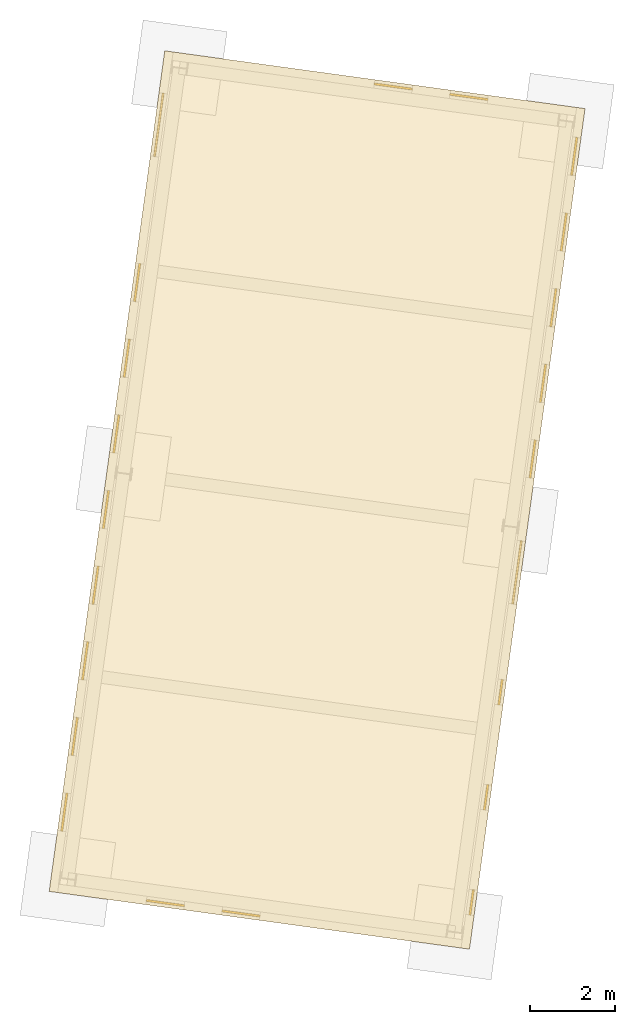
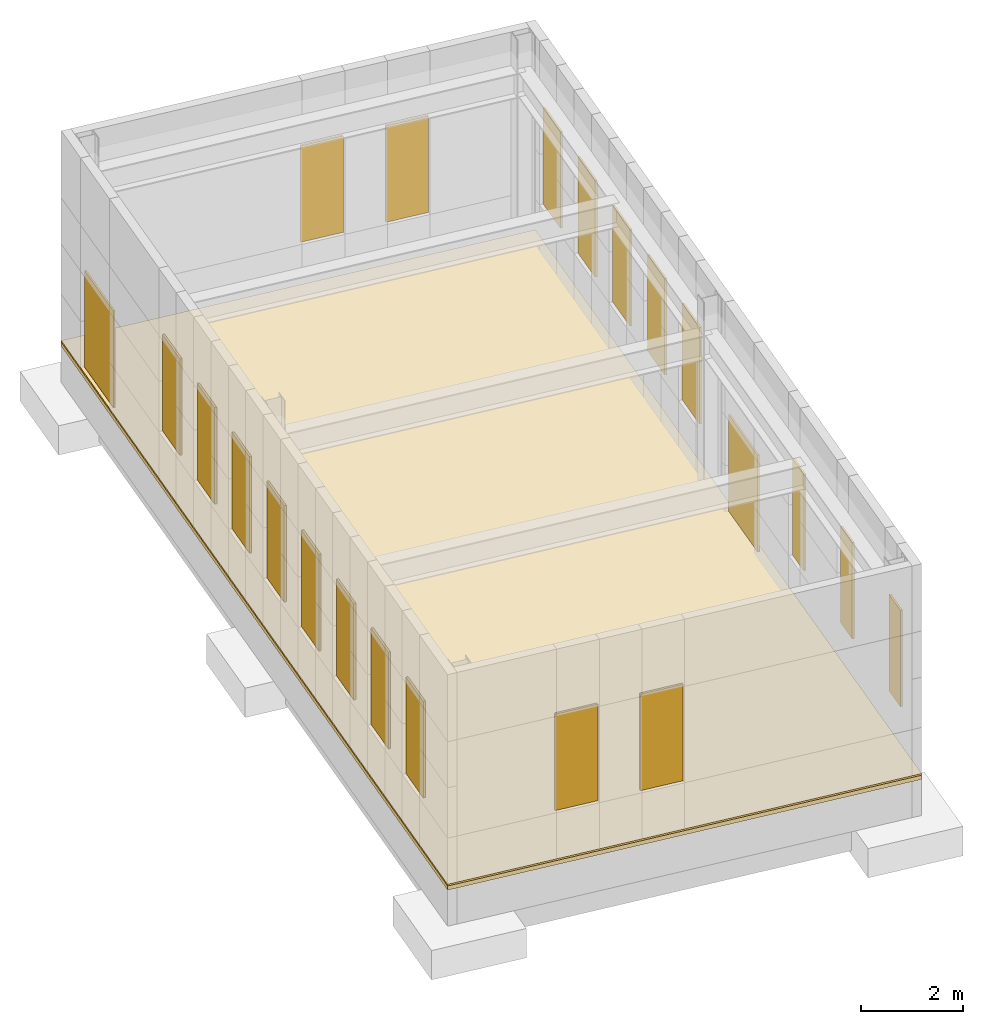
# One storey, part 5 of 5: 20 windows, 2 coverings, 2 doors.
"""IFC4 building model written with IfcOpenShell, lengths in metres."""

from ifc_helpers import new_model, si_unit, direction, origin_with_axes, place, context, subcontext, project, spatial, triangles, material, element, save


model = new_model("IFC4")

# Units and contexts
model_context = context("Model", 3, precision=1e-05, world=origin_with_axes(), true_north=direction((0.0, 1.0)))
body_context = subcontext(model_context, "Body", "Model", "MODEL_VIEW")
ifc_project = project(units=[si_unit("AREAUNIT", "SQUARE_METRE"), si_unit("VOLUMEUNIT", "CUBIC_METRE"), si_unit("LENGTHUNIT", "METRE")], contexts=[model_context])

# Site, building, storey
site_placement = place(None, origin_with_axes())
site = spatial("IfcSite", under=ifc_project, at=site_placement, Name="Parcela industrial Jinhong")
building_placement = place(site_placement, origin_with_axes())
building = spatial("IfcBuilding", under=site, at=building_placement, Name="Edificio de oficinas")
storey_placement = place(building_placement, origin_with_axes())
storey = spatial("IfcBuildingStorey", under=building, at=storey_placement, Name="Planta baja", Elevation=0.9499999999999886)

# Windows
ifc_material_1 = material(Name="Aluminio y acristalamiento 6+12A+6", Category="Material documentado")
window_1_placement = place(storey_placement, origin_with_axes())
element("IfcWindow", 1, at=window_1_placement, inside=storey, material=ifc_material_1, Name="Edificio de oficinas · ventana C0923_B_1", PredefinedType="WINDOW", context=body_context, shape_type="Tessellation", body=[
    triangles([(27.232742, 90.878997, 2.05), (27.110159, 89.987384, 2.05), (27.154739, 89.981255, 2.05), (27.277323, 90.872868, 2.05), (27.232742, 90.878997, 4.35), (27.110159, 89.987384, 4.35), (27.154739, 89.981255, 4.35), (27.277323, 90.872868, 4.35)], [[2, 1, 4], [4, 3, 2], [8, 5, 6], [6, 7, 8], [1, 2, 6], [1, 6, 5], [2, 3, 7], [2, 7, 6], [3, 4, 8], [3, 8, 7], [4, 1, 5], [4, 5, 8]], closed=True),
])
window_2_placement = place(storey_placement, origin_with_axes())
element("IfcWindow", 2, at=window_2_placement, inside=storey, material=ifc_material_1, Name="Edificio de oficinas · ventana C0923_B_2", PredefinedType="WINDOW", context=body_context, shape_type="Tessellation", body=[
    triangles([(26.987575, 89.095772, 2.05), (26.864992, 88.204159, 2.05), (26.909572, 88.19803, 2.05), (27.032156, 89.089642, 2.05), (26.987575, 89.095772, 4.35), (26.864992, 88.204159, 4.35), (26.909572, 88.19803, 4.35), (27.032156, 89.089642, 4.35)], [[2, 1, 4], [4, 3, 2], [8, 5, 6], [6, 7, 8], [1, 2, 6], [1, 6, 5], [2, 3, 7], [2, 7, 6], [3, 4, 8], [3, 8, 7], [4, 1, 5], [4, 5, 8]], closed=True),
])
window_3_placement = place(storey_placement, origin_with_axes())
element("IfcWindow", 3, at=window_3_placement, inside=storey, material=ifc_material_1, Name="Edificio de oficinas · ventana C0923_B_3", PredefinedType="WINDOW", context=body_context, shape_type="Tessellation", body=[
    triangles([(26.742408, 87.312546, 2.05), (26.619825, 86.420933, 2.05), (26.664405, 86.414804, 2.05), (26.786989, 87.306417, 2.05), (26.742408, 87.312546, 4.35), (26.619825, 86.420933, 4.35), (26.664405, 86.414804, 4.35), (26.786989, 87.306417, 4.35)], [[2, 1, 4], [4, 3, 2], [8, 5, 6], [6, 7, 8], [1, 2, 6], [1, 6, 5], [2, 3, 7], [2, 7, 6], [3, 4, 8], [3, 8, 7], [4, 1, 5], [4, 5, 8]], closed=True),
])
window_4_placement = place(storey_placement, origin_with_axes())
element("IfcWindow", 4, at=window_4_placement, inside=storey, material=ifc_material_1, Name="Edificio de oficinas · ventana C0923_B_4", PredefinedType="WINDOW", context=body_context, shape_type="Tessellation", body=[
    triangles([(26.497241, 85.529321, 2.05), (26.374657, 84.637708, 2.05), (26.419238, 84.631579, 2.05), (26.541822, 85.523191, 2.05), (26.497241, 85.529321, 4.35), (26.374657, 84.637708, 4.35), (26.419238, 84.631579, 4.35), (26.541822, 85.523191, 4.35)], [[2, 1, 4], [4, 3, 2], [8, 5, 6], [6, 7, 8], [1, 2, 6], [1, 6, 5], [2, 3, 7], [2, 7, 6], [3, 4, 8], [3, 8, 7], [4, 1, 5], [4, 5, 8]], closed=True),
])
window_5_placement = place(storey_placement, origin_with_axes())
element("IfcWindow", 5, at=window_5_placement, inside=storey, material=ifc_material_1, Name="Edificio de oficinas · ventana C0923_B_5", PredefinedType="WINDOW", context=body_context, shape_type="Tessellation", body=[
    triangles([(26.252074, 83.746095, 2.05), (26.12949, 82.854482, 2.05), (26.174071, 82.848353, 2.05), (26.296655, 83.739966, 2.05), (26.252074, 83.746095, 4.35), (26.12949, 82.854482, 4.35), (26.174071, 82.848353, 4.35), (26.296655, 83.739966, 4.35)], [[2, 1, 4], [4, 3, 2], [8, 5, 6], [6, 7, 8], [1, 2, 6], [1, 6, 5], [2, 3, 7], [2, 7, 6], [3, 4, 8], [3, 8, 7], [4, 1, 5], [4, 5, 8]], closed=True),
])
window_6_placement = place(storey_placement, origin_with_axes())
element("IfcWindow", 6, at=window_6_placement, inside=storey, material=ifc_material_1, Name="Edificio de oficinas · ventana C0623_B_1", PredefinedType="WINDOW", context=body_context, shape_type="Tessellation", body=[
    triangles([(25.475712, 78.099214, 2.05), (25.393989, 77.504806, 2.05), (25.43857, 77.498677, 2.05), (25.520292, 78.093085, 2.05), (25.475712, 78.099214, 4.35), (25.393989, 77.504806, 4.35), (25.43857, 77.498677, 4.35), (25.520292, 78.093085, 4.35)], [[2, 1, 4], [4, 3, 2], [8, 5, 6], [6, 7, 8], [1, 2, 6], [1, 6, 5], [2, 3, 7], [2, 7, 6], [3, 4, 8], [3, 8, 7], [4, 1, 5], [4, 5, 8]], closed=True),
])
window_7_placement = place(storey_placement, origin_with_axes())
element("IfcWindow", 7, at=window_7_placement, inside=storey, material=ifc_material_1, Name="Edificio de oficinas · ventana C0623_B_2", PredefinedType="WINDOW", context=body_context, shape_type="Tessellation", body=[
    triangles([(25.135202, 75.622512, 2.05), (25.053479, 75.028104, 2.05), (25.09806, 75.021975, 2.05), (25.179782, 75.616383, 2.05), (25.135202, 75.622512, 4.35), (25.053479, 75.028104, 4.35), (25.09806, 75.021975, 4.35), (25.179782, 75.616383, 4.35)], [[2, 1, 4], [4, 3, 2], [8, 5, 6], [6, 7, 8], [1, 2, 6], [1, 6, 5], [2, 3, 7], [2, 7, 6], [3, 4, 8], [3, 8, 7], [4, 1, 5], [4, 5, 8]], closed=True),
])
window_8_placement = place(storey_placement, origin_with_axes())
element("IfcWindow", 8, at=window_8_placement, inside=storey, material=ifc_material_1, Name="Edificio de oficinas · ventana C0623_B_3", PredefinedType="WINDOW", context=body_context, shape_type="Tessellation", body=[
    triangles([(24.794692, 73.14581, 2.05), (24.71297, 72.551402, 2.05), (24.75755, 72.545273, 2.05), (24.839273, 73.139681, 2.05), (24.794692, 73.14581, 4.35), (24.71297, 72.551402, 4.35), (24.75755, 72.545273, 4.35), (24.839273, 73.139681, 4.35)], [[2, 1, 4], [4, 3, 2], [8, 5, 6], [6, 7, 8], [1, 2, 6], [1, 6, 5], [2, 3, 7], [2, 7, 6], [3, 4, 8], [3, 8, 7], [4, 1, 5], [4, 5, 8]], closed=True),
])
window_9_placement = place(storey_placement, origin_with_axes())
element("IfcWindow", 9, at=window_9_placement, inside=storey, material=ifc_material_1, Name="Edificio de oficinas · ventana C0923_A_1", PredefinedType="WINDOW", context=body_context, shape_type="Tessellation", body=[
    triangles([(16.931583, 87.904334, 2.05), (16.809, 87.012721, 2.05), (16.85358, 87.006592, 2.05), (16.976164, 87.898205, 2.05), (16.931583, 87.904334, 4.35), (16.809, 87.012721, 4.35), (16.85358, 87.006592, 4.35), (16.976164, 87.898205, 4.35)], [[2, 1, 4], [4, 3, 2], [8, 5, 6], [6, 7, 8], [1, 2, 6], [1, 6, 5], [2, 3, 7], [2, 7, 6], [3, 4, 8], [3, 8, 7], [4, 1, 5], [4, 5, 8]], closed=True),
])
window_10_placement = place(storey_placement, origin_with_axes())
element("IfcWindow", 10, at=window_10_placement, inside=storey, material=ifc_material_1, Name="Edificio de oficinas · ventana C0923_A_2", PredefinedType="WINDOW", context=body_context, shape_type="Tessellation", body=[
    triangles([(16.686416, 86.121108, 2.05), (16.563832, 85.229496, 2.05), (16.608413, 85.223366, 2.05), (16.730997, 86.114979, 2.05), (16.686416, 86.121108, 4.35), (16.563832, 85.229496, 4.35), (16.608413, 85.223366, 4.35), (16.730997, 86.114979, 4.35)], [[2, 1, 4], [4, 3, 2], [8, 5, 6], [6, 7, 8], [1, 2, 6], [1, 6, 5], [2, 3, 7], [2, 7, 6], [3, 4, 8], [3, 8, 7], [4, 1, 5], [4, 5, 8]], closed=True),
])
window_11_placement = place(storey_placement, origin_with_axes())
element("IfcWindow", 11, at=window_11_placement, inside=storey, material=ifc_material_1, Name="Edificio de oficinas · ventana C0923_A_3", PredefinedType="WINDOW", context=body_context, shape_type="Tessellation", body=[
    triangles([(16.441249, 84.337883, 2.05), (16.318665, 83.44627, 2.05), (16.363246, 83.440141, 2.05), (16.48583, 84.331754, 2.05), (16.441249, 84.337883, 4.35), (16.318665, 83.44627, 4.35), (16.363246, 83.440141, 4.35), (16.48583, 84.331754, 4.35)], [[2, 1, 4], [4, 3, 2], [8, 5, 6], [6, 7, 8], [1, 2, 6], [1, 6, 5], [2, 3, 7], [2, 7, 6], [3, 4, 8], [3, 8, 7], [4, 1, 5], [4, 5, 8]], closed=True),
])
window_12_placement = place(storey_placement, origin_with_axes())
element("IfcWindow", 12, at=window_12_placement, inside=storey, material=ifc_material_1, Name="Edificio de oficinas · ventana C0923_A_4", PredefinedType="WINDOW", context=body_context, shape_type="Tessellation", body=[
    triangles([(16.196082, 82.554657, 2.05), (16.073498, 81.663045, 2.05), (16.118079, 81.656916, 2.05), (16.240663, 82.548528, 2.05), (16.196082, 82.554657, 4.35), (16.073498, 81.663045, 4.35), (16.118079, 81.656916, 4.35), (16.240663, 82.548528, 4.35)], [[2, 1, 4], [4, 3, 2], [8, 5, 6], [6, 7, 8], [1, 2, 6], [1, 6, 5], [2, 3, 7], [2, 7, 6], [3, 4, 8], [3, 8, 7], [4, 1, 5], [4, 5, 8]], closed=True),
])
window_13_placement = place(storey_placement, origin_with_axes())
element("IfcWindow", 13, at=window_13_placement, inside=storey, material=ifc_material_1, Name="Edificio de oficinas · ventana C0923_A_5", PredefinedType="WINDOW", context=body_context, shape_type="Tessellation", body=[
    triangles([(15.950915, 80.771432, 2.05), (15.828331, 79.879819, 2.05), (15.872912, 79.87369, 2.05), (15.995495, 80.765303, 2.05), (15.950915, 80.771432, 4.35), (15.828331, 79.879819, 4.35), (15.872912, 79.87369, 4.35), (15.995495, 80.765303, 4.35)], [[2, 1, 4], [4, 3, 2], [8, 5, 6], [6, 7, 8], [1, 2, 6], [1, 6, 5], [2, 3, 7], [2, 7, 6], [3, 4, 8], [3, 8, 7], [4, 1, 5], [4, 5, 8]], closed=True),
])
window_14_placement = place(storey_placement, origin_with_axes())
element("IfcWindow", 14, at=window_14_placement, inside=storey, material=ifc_material_1, Name="Edificio de oficinas · ventana C0923_A_6", PredefinedType="WINDOW", context=body_context, shape_type="Tessellation", body=[
    triangles([(15.705748, 78.988206, 2.05), (15.583164, 78.096594, 2.05), (15.627745, 78.090465, 2.05), (15.750328, 78.982077, 2.05), (15.705748, 78.988206, 4.35), (15.583164, 78.096594, 4.35), (15.627745, 78.090465, 4.35), (15.750328, 78.982077, 4.35)], [[2, 1, 4], [4, 3, 2], [8, 5, 6], [6, 7, 8], [1, 2, 6], [1, 6, 5], [2, 3, 7], [2, 7, 6], [3, 4, 8], [3, 8, 7], [4, 1, 5], [4, 5, 8]], closed=True),
])
window_15_placement = place(storey_placement, origin_with_axes())
element("IfcWindow", 15, at=window_15_placement, inside=storey, material=ifc_material_1, Name="Edificio de oficinas · ventana C0923_A_7", PredefinedType="WINDOW", context=body_context, shape_type="Tessellation", body=[
    triangles([(15.460581, 77.204981, 2.05), (15.337997, 76.313368, 2.05), (15.382578, 76.307239, 2.05), (15.505161, 77.198852, 2.05), (15.460581, 77.204981, 4.35), (15.337997, 76.313368, 4.35), (15.382578, 76.307239, 4.35), (15.505161, 77.198852, 4.35)], [[2, 1, 4], [4, 3, 2], [8, 5, 6], [6, 7, 8], [1, 2, 6], [1, 6, 5], [2, 3, 7], [2, 7, 6], [3, 4, 8], [3, 8, 7], [4, 1, 5], [4, 5, 8]], closed=True),
])
window_16_placement = place(storey_placement, origin_with_axes())
element("IfcWindow", 16, at=window_16_placement, inside=storey, material=ifc_material_1, Name="Edificio de oficinas · ventana C0923_A_8", PredefinedType="WINDOW", context=body_context, shape_type="Tessellation", body=[
    triangles([(15.215414, 75.421756, 2.05), (15.09283, 74.530143, 2.05), (15.137411, 74.524014, 2.05), (15.259994, 75.415626, 2.05), (15.215414, 75.421756, 4.35), (15.09283, 74.530143, 4.35), (15.137411, 74.524014, 4.35), (15.259994, 75.415626, 4.35)], [[2, 1, 4], [4, 3, 2], [8, 5, 6], [6, 7, 8], [1, 2, 6], [1, 6, 5], [2, 3, 7], [2, 7, 6], [3, 4, 8], [3, 8, 7], [4, 1, 5], [4, 5, 8]], closed=True),
])
window_17_placement = place(storey_placement, origin_with_axes())
element("IfcWindow", 17, at=window_17_placement, inside=storey, material=ifc_material_1, Name="Edificio de oficinas · ventana C0923_1_1", PredefinedType="WINDOW", context=body_context, shape_type="Tessellation", body=[
    triangles([(22.485483, 92.16003, 2.05), (22.479354, 92.11545, 2.05), (23.370967, 91.992866, 2.05), (23.377096, 92.037447, 2.05), (22.485483, 92.16003, 4.35), (22.479354, 92.11545, 4.35), (23.370967, 91.992866, 4.35), (23.377096, 92.037447, 4.35)], [[2, 1, 4], [4, 3, 2], [8, 5, 6], [6, 7, 8], [1, 2, 6], [1, 6, 5], [2, 3, 7], [2, 7, 6], [3, 4, 8], [3, 8, 7], [4, 1, 5], [4, 5, 8]], closed=True),
])
window_18_placement = place(storey_placement, origin_with_axes())
element("IfcWindow", 18, at=window_18_placement, inside=storey, material=ifc_material_1, Name="Edificio de oficinas · ventana C0923_1_2", PredefinedType="WINDOW", context=body_context, shape_type="Tessellation", body=[
    triangles([(24.268709, 91.914863, 2.05), (24.26258, 91.870283, 2.05), (25.154192, 91.747699, 2.05), (25.160322, 91.79228, 2.05), (24.268709, 91.914863, 4.35), (24.26258, 91.870283, 4.35), (25.154192, 91.747699, 4.35), (25.160322, 91.79228, 4.35)], [[2, 1, 4], [4, 3, 2], [8, 5, 6], [6, 7, 8], [1, 2, 6], [1, 6, 5], [2, 3, 7], [2, 7, 6], [3, 4, 8], [3, 8, 7], [4, 1, 5], [4, 5, 8]], closed=True),
])
window_19_placement = place(storey_placement, origin_with_axes())
element("IfcWindow", 19, at=window_19_placement, inside=storey, material=ifc_material_1, Name="Edificio de oficinas · ventana C0923_3_1", PredefinedType="WINDOW", context=body_context, shape_type="Tessellation", body=[
    triangles([(17.113808, 72.912301, 2.05), (17.107678, 72.86772, 2.05), (17.999291, 72.745137, 2.05), (18.00542, 72.789717, 2.05), (17.113808, 72.912301, 4.35), (17.107678, 72.86772, 4.35), (17.999291, 72.745137, 4.35), (18.00542, 72.789717, 4.35)], [[2, 1, 4], [4, 3, 2], [8, 5, 6], [6, 7, 8], [1, 2, 6], [1, 6, 5], [2, 3, 7], [2, 7, 6], [3, 4, 8], [3, 8, 7], [4, 1, 5], [4, 5, 8]], closed=True),
])
window_20_placement = place(storey_placement, origin_with_axes())
element("IfcWindow", 20, at=window_20_placement, inside=storey, material=ifc_material_1, Name="Edificio de oficinas · ventana C0923_3_2", PredefinedType="WINDOW", context=body_context, shape_type="Tessellation", body=[
    triangles([(18.897033, 72.667134, 2.05), (18.890904, 72.622553, 2.05), (19.782517, 72.49997, 2.05), (19.788646, 72.54455, 2.05), (18.897033, 72.667134, 4.35), (18.890904, 72.622553, 4.35), (19.782517, 72.49997, 4.35), (19.788646, 72.54455, 4.35)], [[2, 1, 4], [4, 3, 2], [8, 5, 6], [6, 7, 8], [1, 2, 6], [1, 6, 5], [2, 3, 7], [2, 7, 6], [3, 4, 8], [3, 8, 7], [4, 1, 5], [4, 5, 8]], closed=True),
])

# Doors
ifc_material_2 = material(Name="Madera DM lacada", Category="Material documentado")
door_1_placement = place(storey_placement, origin_with_axes())
element("IfcDoor", 21, at=door_1_placement, inside=storey, material=ifc_material_2, Name="Edificio de oficinas · puerta WM1523_A", PredefinedType="DOOR", context=body_context, shape_type="Tessellation", body=[
    triangles([(17.485686, 91.916251, 0.95), (17.28138, 90.430229, 0.95), (17.321007, 90.424781, 0.95), (17.525313, 91.910803, 0.95), (17.485686, 91.916251, 3.25), (17.28138, 90.430229, 3.25), (17.321007, 90.424781, 3.25), (17.525313, 91.910803, 3.25)], [[2, 1, 4], [4, 3, 2], [8, 5, 6], [6, 7, 8], [1, 2, 6], [1, 6, 5], [2, 3, 7], [2, 7, 6], [3, 4, 8], [3, 8, 7], [4, 1, 5], [4, 5, 8]], closed=True),
])
door_2_placement = place(storey_placement, origin_with_axes())
element("IfcDoor", 22, at=door_2_placement, inside=storey, material=ifc_material_2, Name="Edificio de oficinas · puerta WM1523_B", PredefinedType="DOOR", context=body_context, shape_type="Tessellation", body=[
    triangles([(25.927661, 81.368121, 0.95), (25.723355, 79.882099, 0.95), (25.762983, 79.876651, 0.95), (25.967288, 81.362672, 0.95), (25.927661, 81.368121, 3.25), (25.723355, 79.882099, 3.25), (25.762983, 79.876651, 3.25), (25.967288, 81.362672, 3.25)], [[2, 1, 4], [4, 3, 2], [8, 5, 6], [6, 7, 8], [1, 2, 6], [1, 6, 5], [2, 3, 7], [2, 7, 6], [3, 4, 8], [3, 8, 7], [4, 1, 5], [4, 5, 8]], closed=True),
])

# Coverings
ifc_material_3 = material(Name="Poliestireno extruido XPS", Category="Material documentado")
covering_1_placement = place(storey_placement, origin_with_axes())
element("IfcCovering", 23, at=covering_1_placement, inside=storey, material=ifc_material_3, Name="Aislamiento XPS del pavimento de oficinas · 100 mm", PredefinedType="INSULATION", context=body_context, shape_type="Tessellation", body=[
    triangles([(17.542635, 92.917828, 0.81), (14.818557, 73.104211, 0.81), (24.725365, 71.742172, 0.81), (27.449443, 91.555789, 0.81), (17.542635, 92.917828, 0.91), (14.818557, 73.104211, 0.91), (24.725365, 71.742172, 0.91), (27.449443, 91.555789, 0.91)], [[2, 1, 4], [4, 3, 2], [8, 5, 6], [6, 7, 8], [1, 2, 6], [1, 6, 5], [2, 3, 7], [2, 7, 6], [3, 4, 8], [3, 8, 7], [4, 1, 5], [4, 5, 8]], closed=True),
])
ifc_material_4 = material(Name="Mortero de cemento y baldosa cerámica", Category="Material documentado")
covering_2_placement = place(storey_placement, origin_with_axes())
element("IfcCovering", 24, at=covering_2_placement, inside=storey, material=ifc_material_4, Name="Mortero y baldosa del pavimento de oficinas", PredefinedType="FLOORING", context=body_context, shape_type="Tessellation", body=[
    triangles([(17.542635, 92.917828, 0.91), (14.818557, 73.104211, 0.91), (24.725365, 71.742172, 0.91), (27.449443, 91.555789, 0.91), (17.542635, 92.917828, 0.95), (14.818557, 73.104211, 0.95), (24.725365, 71.742172, 0.95), (27.449443, 91.555789, 0.95)], [[2, 1, 4], [4, 3, 2], [8, 5, 6], [6, 7, 8], [1, 2, 6], [1, 6, 5], [2, 3, 7], [2, 7, 6], [3, 4, 8], [3, 8, 7], [4, 1, 5], [4, 5, 8]], closed=True),
])

save(model, "model.ifc")
